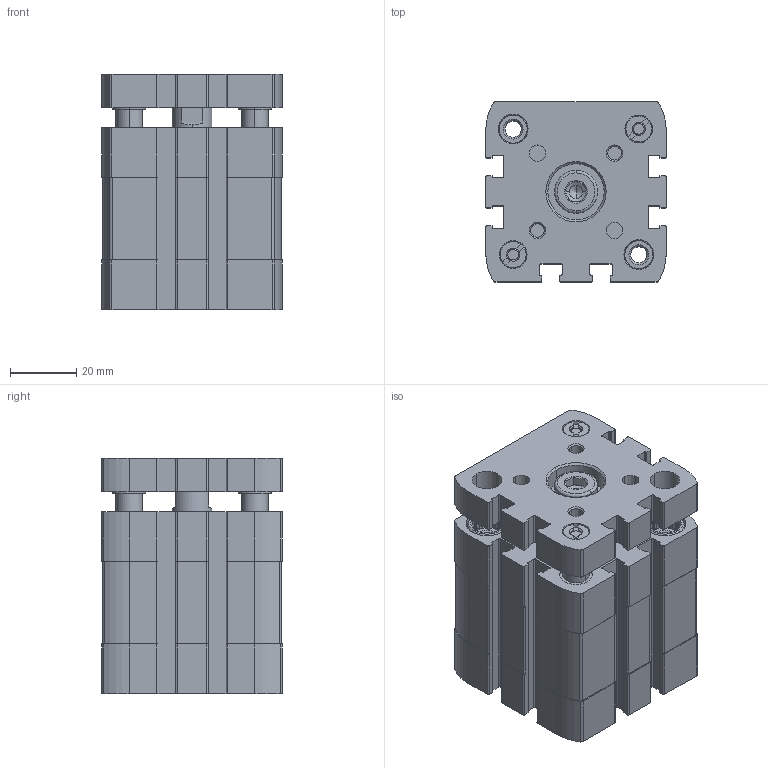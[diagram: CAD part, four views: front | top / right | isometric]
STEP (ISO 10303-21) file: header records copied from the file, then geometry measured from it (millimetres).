
FILE_DESCRIPTION (( 'STEP AP203' ), '1' );
FILE_NAME ('CCNG40-10.STEP', '2017-04-13T19:31:08', ( '' ), ( '' ), 'SwSTEP 2.0', 'SolidWorks 2016', '' );
FILE_SCHEMA (( 'CONFIG_CONTROL_DESIGN' ));
Length unit declared in the file: millimetre
Products named in the file (3): CCNG-40-10---(KS); CCNG40-10; CCNG-40-10----(Z)
Assembly tree (2 placements, depth 2):
  CCNG40-10
    CCNG-40-10----(Z)
    CCNG-40-10---(KS)
Bounding box: 54.5 x 54.5 x 71.1 mm (x, y, z)
Volume: 156280.8 mm3; surface area: 51075 mm2
Topology: 2 solids, 4 shells, 715 faces, 1929 edges, 1264 vertices
Faces by surface type: plane 363, cylinder 274, cone 72, bspline 6
Entity records: 23185 total; most frequent: CARTESIAN_POINT 4447, DIRECTION 3974, ORIENTED_EDGE 3854, EDGE_CURVE 1927, AXIS2_PLACEMENT_3D 1467, VERTEX_POINT 1264, LINE 1040, VECTOR 1040
